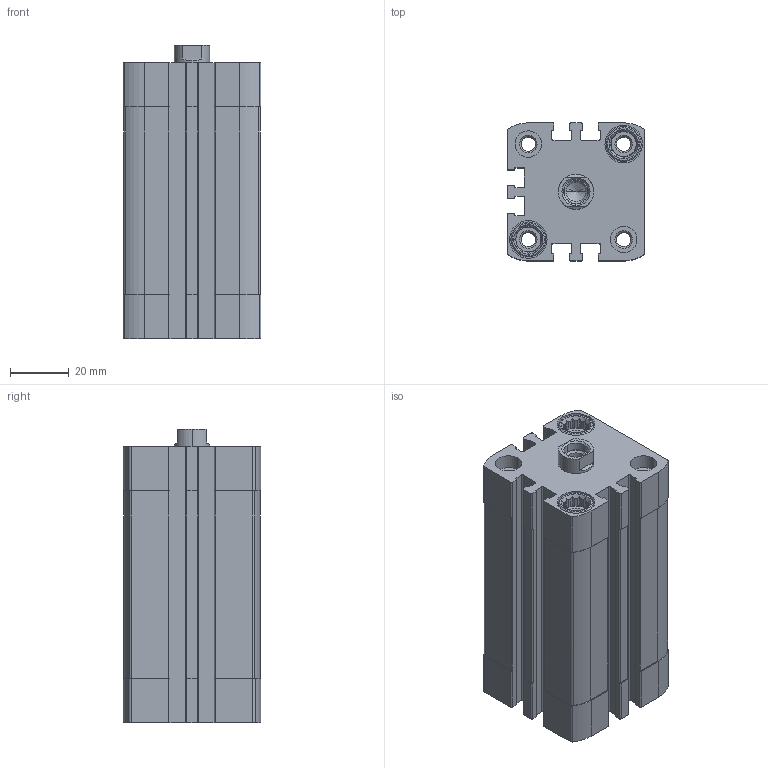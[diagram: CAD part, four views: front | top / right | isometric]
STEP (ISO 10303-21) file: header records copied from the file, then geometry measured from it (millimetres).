
FILE_DESCRIPTION (( 'STEP AP203' ), '1' );
FILE_NAME ('CCN32-50F.STEP', '2017-03-29T11:29:36', ( '' ), ( '' ), 'SwSTEP 2.0', 'SolidWorks 2016', '' );
FILE_SCHEMA (( 'CONFIG_CONTROL_DESIGN' ));
Length unit declared in the file: millimetre
Products named in the file (3): CCN-50---(Z); CCN-50_(KS); CCN32-50F
Assembly tree (2 placements, depth 2):
  CCN32-50F
    CCN-50---(Z)
    CCN-50_(KS)
Bounding box: 47 x 47 x 100 mm (x, y, z)
Volume: 134992.7 mm3; surface area: 51673.5 mm2
Topology: 2 solids, 2 shells, 479 faces, 1298 edges, 853 vertices
Faces by surface type: plane 267, cylinder 170, cone 42
Entity records: 15589 total; most frequent: CARTESIAN_POINT 2927, DIRECTION 2652, ORIENTED_EDGE 2592, EDGE_CURVE 1296, AXIS2_PLACEMENT_3D 970, VERTEX_POINT 853, VECTOR 712, LINE 712
